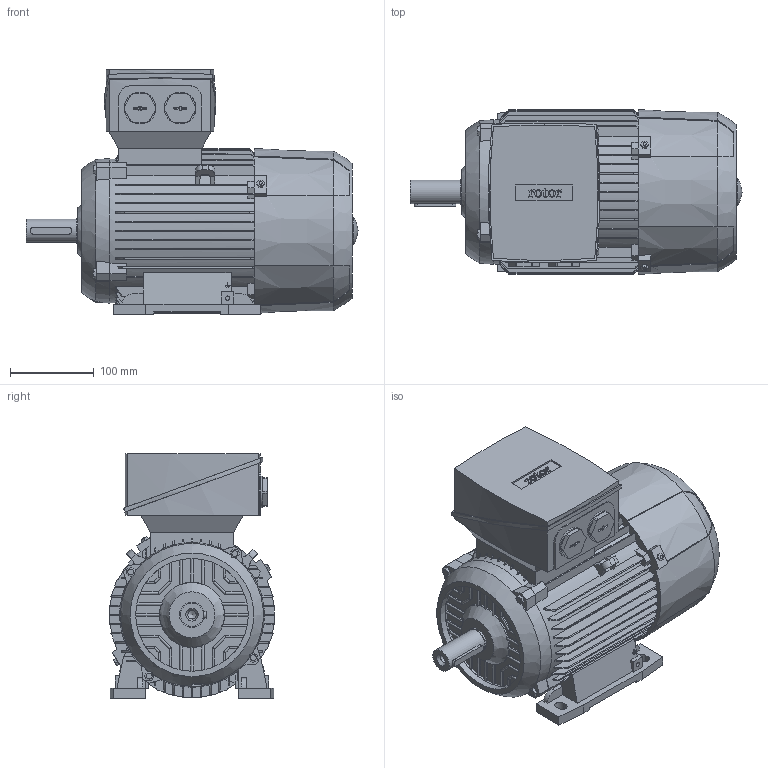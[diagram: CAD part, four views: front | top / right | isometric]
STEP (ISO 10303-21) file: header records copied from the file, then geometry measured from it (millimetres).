
FILE_DESCRIPTION (( 'STEP AP214' ), '1' );
FILE_NAME ('6RN100L08E25 IM1041.STEP', '2018-01-02T10:57:14', ( 'rbc_ict' ), ( '' ), 'SwSTEP 2.0', 'SolidWorks 2015', '' );
FILE_SCHEMA (( 'AUTOMOTIVE_DESIGN' ));
Length unit declared in the file: millimetre
Products named in the file (1): 6RN100L08E25 IM1041
Bounding box: 397.5 x 197.3 x 293 mm (x, y, z)
Volume: 10568007.9 mm3; surface area: 526283.2 mm2
Topology: 1 solids, 1 shells, 1006 faces, 2897 edges, 1921 vertices
Faces by surface type: plane 670, cylinder 173, bspline 138, cone 25
Full cylindrical faces by diameter (mm): 5 x2, 6.7 x3, 8.16 x1, 10 x1, 28 x1, 30 x1, 32 x1, 38 x2, 135 x1
Entity records: 47778 total; most frequent: CARTESIAN_POINT 13052, ORIENTED_EDGE 5708, DIRECTION 4293, EDGE_CURVE 2854, VERTEX_POINT 1904, LINE 1687, VECTOR 1687, AXIS2_PLACEMENT_3D 1303
